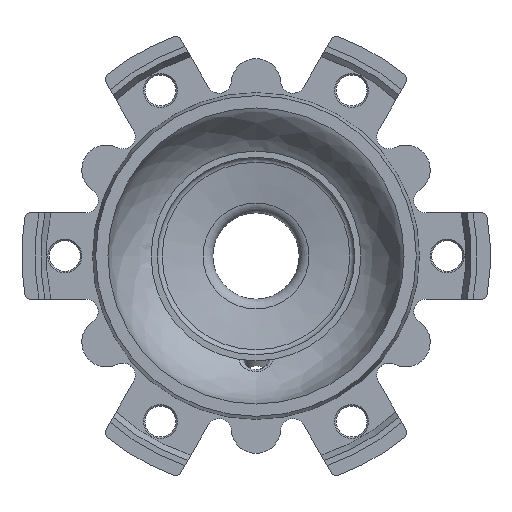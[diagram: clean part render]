
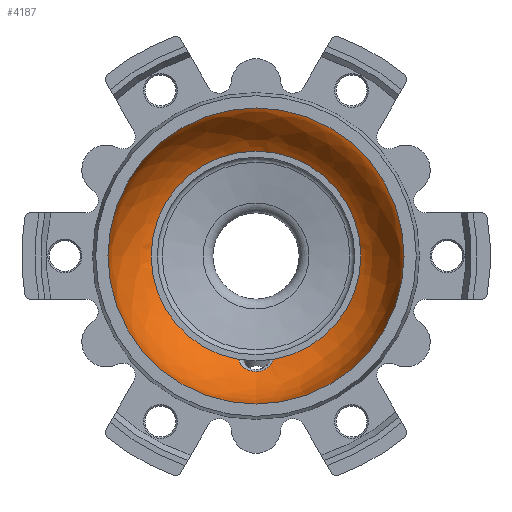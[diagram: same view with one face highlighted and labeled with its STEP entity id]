
A CAD part, left-side view. The second image highlights one B-rep face of the part: STEP entity #4187.
In plain terms, the highlighted free-form (B-spline) face has degree [2, 2] with [3, 9] control points.
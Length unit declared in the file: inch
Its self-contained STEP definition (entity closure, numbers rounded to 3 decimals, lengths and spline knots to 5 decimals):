
#31=(
BOUNDED_CURVE()
B_SPLINE_CURVE(2,(#6806,#6807,#6808),.UNSPECIFIED.,.F.,.F.)
B_SPLINE_CURVE_WITH_KNOTS((3,3),(0.02514,0.83074),
 .UNSPECIFIED.)
CURVE()
GEOMETRIC_REPRESENTATION_ITEM()
RATIONAL_B_SPLINE_CURVE((1.,0.895,0.949))
REPRESENTATION_ITEM('')
);
#44=(
BOUNDED_SURFACE()
B_SPLINE_SURFACE(2,2,((#6777,#6778,#6779,#6780,#6781,#6782,#6783,#6784,
#6785),(#6786,#6787,#6788,#6789,#6790,#6791,#6792,#6793,#6794),(#6795,#6796,
#6797,#6798,#6799,#6800,#6801,#6802,#6803)),.UNSPECIFIED.,.F.,.T.,.F.)
B_SPLINE_SURFACE_WITH_KNOTS((3,3),(3,2,2,2,3),(-1.08838,-0.02514),
(-3.14159,-1.5708,0.,1.5708,3.14159),
 .UNSPECIFIED.)
GEOMETRIC_REPRESENTATION_ITEM()
RATIONAL_B_SPLINE_SURFACE(((1.,0.707,1.,0.707,1.,
0.707,1.,0.707,1.),(0.862,0.61,
0.862,0.61,0.862,0.61,
0.862,0.61,0.862),(1.,0.707,
1.,0.707,1.,0.707,1.,0.707,1.)))
REPRESENTATION_ITEM('')
SURFACE()
);
#104=B_SPLINE_CURVE_WITH_KNOTS('',3,(#6665,#6666,#6667,#6668,#6669,#6670,
#6671),.UNSPECIFIED.,.F.,.F.,(4,1,1,1,4),(-1.96677,-1.6858,
-1.40484,-1.12387,-0.98351),.UNSPECIFIED.);
#105=B_SPLINE_CURVE_WITH_KNOTS('',3,(#6673,#6674,#6675,#6676,#6677,#6678,
#6679),.UNSPECIFIED.,.F.,.F.,(4,1,1,1,4),(-0.98338,-0.8429,
-0.56193,-0.28097,0.),.UNSPECIFIED.);
#420=FACE_OUTER_BOUND('',#705,.T.);
#705=EDGE_LOOP('',(#2902,#2903,#2904,#2905,#2906,#2907));
#1417=CIRCLE('',#4534,0.96424);
#1420=CIRCLE('',#4537,1.5);
#1796=VERTEX_POINT('',#6662);
#1797=VERTEX_POINT('',#6664);
#1798=VERTEX_POINT('',#6672);
#1803=VERTEX_POINT('',#6804);
#2200=EDGE_CURVE('',#1796,#1797,#104,.T.);
#2201=EDGE_CURVE('',#1797,#1798,#105,.T.);
#2208=EDGE_CURVE('',#1798,#1796,#1417,.T.);
#2211=EDGE_CURVE('',#1803,#1803,#1420,.T.);
#2212=EDGE_CURVE('',#1803,#1797,#31,.T.);
#2902=ORIENTED_EDGE('',*,*,#2211,.T.);
#2903=ORIENTED_EDGE('',*,*,#2212,.T.);
#2904=ORIENTED_EDGE('',*,*,#2200,.F.);
#2905=ORIENTED_EDGE('',*,*,#2208,.F.);
#2906=ORIENTED_EDGE('',*,*,#2201,.F.);
#2907=ORIENTED_EDGE('',*,*,#2212,.F.);
#4187=ADVANCED_FACE('',(#420),#44,.T.);
#4534=AXIS2_PLACEMENT_3D('',#6773,#5230,#5231);
#4537=AXIS2_PLACEMENT_3D('',#6805,#5236,#5237);
#5230=DIRECTION('center_axis',(-1.,0.,0.));
#5231=DIRECTION('ref_axis',(0.,0.,1.));
#5236=DIRECTION('center_axis',(-1.,0.,0.));
#5237=DIRECTION('ref_axis',(0.,0.,1.));
#6662=CARTESIAN_POINT('',(0.86073,0.1652,-0.94998));
#6664=CARTESIAN_POINT('',(0.71654,-0.00005,-1.17108));
#6665=CARTESIAN_POINT('Ctrl Pts',(0.86073,0.1652,-0.94998));
#6666=CARTESIAN_POINT('Ctrl Pts',(0.84522,0.17969,-0.97754));
#6667=CARTESIAN_POINT('Ctrl Pts',(0.80855,0.18945,-1.03876));
#6668=CARTESIAN_POINT('Ctrl Pts',(0.75283,0.1467,-1.12151));
#6669=CARTESIAN_POINT('Ctrl Pts',(0.72133,0.07128,
-1.16456));
#6670=CARTESIAN_POINT('Ctrl Pts',(0.71655,0.01781,
-1.17106));
#6671=CARTESIAN_POINT('Ctrl Pts',(0.71654,0.,
-1.17108));
#6672=CARTESIAN_POINT('',(0.86073,-0.1652,-0.94998));
#6673=CARTESIAN_POINT('Ctrl Pts',(0.71654,-0.00005,
-1.17108));
#6674=CARTESIAN_POINT('Ctrl Pts',(0.71652,-0.01787,
-1.17109));
#6675=CARTESIAN_POINT('Ctrl Pts',(0.72122,-0.07134,
-1.16467));
#6676=CARTESIAN_POINT('Ctrl Pts',(0.75282,-0.14664,
-1.12152));
#6677=CARTESIAN_POINT('Ctrl Pts',(0.80851,-0.18944,
-1.0388));
#6678=CARTESIAN_POINT('Ctrl Pts',(0.84522,-0.17969,
-0.97754));
#6679=CARTESIAN_POINT('Ctrl Pts',(0.86073,-0.1652,
-0.94998));
#6773=CARTESIAN_POINT('Origin',(0.86073,0.,0.));
#6777=CARTESIAN_POINT('Ctrl Pts',(0.86073,0.,-0.96424));
#6778=CARTESIAN_POINT('Ctrl Pts',(0.86073,-0.96424,
-0.96424));
#6779=CARTESIAN_POINT('Ctrl Pts',(0.86073,-0.96424,
0.));
#6780=CARTESIAN_POINT('Ctrl Pts',(0.86073,-0.96424,
0.96424));
#6781=CARTESIAN_POINT('Ctrl Pts',(0.86073,0.,0.96424));
#6782=CARTESIAN_POINT('Ctrl Pts',(0.86073,0.96424,0.96424));
#6783=CARTESIAN_POINT('Ctrl Pts',(0.86073,0.96424,0.));
#6784=CARTESIAN_POINT('Ctrl Pts',(0.86073,0.96424,-0.96424));
#6785=CARTESIAN_POINT('Ctrl Pts',(0.86073,0.,-0.96424));
#6786=CARTESIAN_POINT('Ctrl Pts',(0.5879,0.,-1.48522));
#6787=CARTESIAN_POINT('Ctrl Pts',(0.5879,-1.48522,-1.48522));
#6788=CARTESIAN_POINT('Ctrl Pts',(0.5879,-1.48522,0.));
#6789=CARTESIAN_POINT('Ctrl Pts',(0.5879,-1.48522,1.48522));
#6790=CARTESIAN_POINT('Ctrl Pts',(0.5879,0.,1.48522));
#6791=CARTESIAN_POINT('Ctrl Pts',(0.5879,1.48522,1.48522));
#6792=CARTESIAN_POINT('Ctrl Pts',(0.5879,1.48522,0.));
#6793=CARTESIAN_POINT('Ctrl Pts',(0.5879,1.48522,-1.48522));
#6794=CARTESIAN_POINT('Ctrl Pts',(0.5879,0.,-1.48522));
#6795=CARTESIAN_POINT('Ctrl Pts',(0.,0.,-1.5));
#6796=CARTESIAN_POINT('Ctrl Pts',(0.,-1.5,-1.5));
#6797=CARTESIAN_POINT('Ctrl Pts',(0.,-1.5,0.));
#6798=CARTESIAN_POINT('Ctrl Pts',(0.,-1.5,1.5));
#6799=CARTESIAN_POINT('Ctrl Pts',(0.,0.,1.5));
#6800=CARTESIAN_POINT('Ctrl Pts',(0.,1.5,1.5));
#6801=CARTESIAN_POINT('Ctrl Pts',(0.,1.5,0.));
#6802=CARTESIAN_POINT('Ctrl Pts',(0.,1.5,-1.5));
#6803=CARTESIAN_POINT('Ctrl Pts',(0.,0.,-1.5));
#6804=CARTESIAN_POINT('',(0.,0.,-1.5));
#6805=CARTESIAN_POINT('Origin',(0.,0.,0.));
#6806=CARTESIAN_POINT('Ctrl Pts',(0.,0.,-1.5));
#6807=CARTESIAN_POINT('Ctrl Pts',(0.42881,0.,-1.48922));
#6808=CARTESIAN_POINT('Ctrl Pts',(0.71653,0.,-1.17108));
